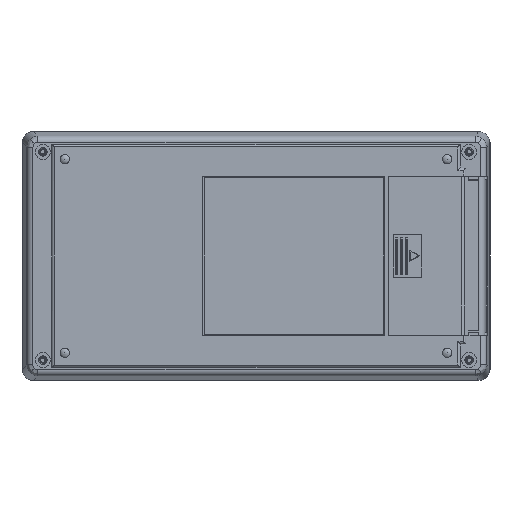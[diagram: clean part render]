
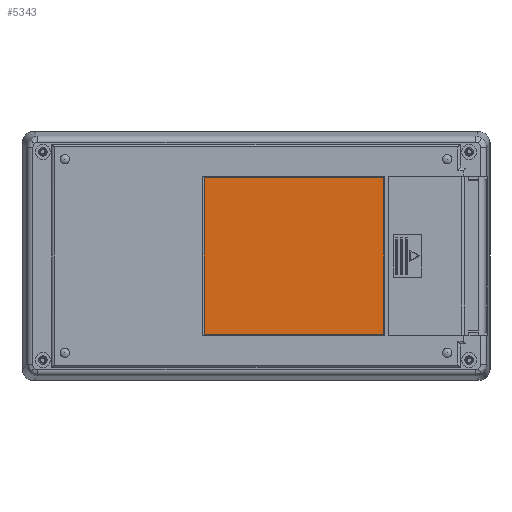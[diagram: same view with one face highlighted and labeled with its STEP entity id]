
A CAD part, front view. The second image highlights one B-rep face of the part: STEP entity #5343.
In plain terms, the highlighted planar face has unit normal (0, -1, 0).
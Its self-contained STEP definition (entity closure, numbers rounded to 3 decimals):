
#19 = VECTOR ( 'NONE', #9238, 1000. ) ;
#167 = ORIENTED_EDGE ( 'NONE', *, *, #18720, .T. ) ;
#619 = ORIENTED_EDGE ( 'NONE', *, *, #25560, .T. ) ;
#759 = CARTESIAN_POINT ( 'NONE',  ( 52.1, -14.3, 32. ) ) ;
#1273 = LINE ( 'NONE', #19571, #19328 ) ;
#1848 = LINE ( 'NONE', #16998, #19942 ) ;
#2340 = FACE_OUTER_BOUND ( 'NONE', #5922, .T. ) ;
#4705 = EDGE_CURVE ( 'NONE', #21185, #5279, #1273, .T. ) ;
#4934 = VECTOR ( 'NONE', #19620, 1000. ) ;
#5279 = VERTEX_POINT ( 'NONE', #23402 ) ;
#5343 = ADVANCED_FACE ( 'NONE', ( #2340 ), #7094, .T. ) ;
#5604 = CARTESIAN_POINT ( 'NONE',  ( 52.1, -14.3, 32. ) ) ;
#5922 = EDGE_LOOP ( 'NONE', ( #10337, #619, #167, #21946 ) ) ;
#6863 = CARTESIAN_POINT ( 'NONE',  ( 52.1, -14.3, -32. ) ) ;
#7094 = PLANE ( 'NONE',  #15689 ) ;
#8149 = DIRECTION ( 'NONE',  ( 0., 0., 1. ) ) ;
#8502 = CARTESIAN_POINT ( 'NONE',  ( 52.1, -14.3, -32. ) ) ;
#9238 = DIRECTION ( 'NONE',  ( 1., 0., 0. ) ) ;
#9574 = DIRECTION ( 'NONE',  ( 0., 0., -1. ) ) ;
#10112 = EDGE_CURVE ( 'NONE', #5279, #23004, #12581, .T. ) ;
#10337 = ORIENTED_EDGE ( 'NONE', *, *, #10112, .T. ) ;
#12581 = LINE ( 'NONE', #6863, #19 ) ;
#12689 = VERTEX_POINT ( 'NONE', #5604 ) ;
#15689 = AXIS2_PLACEMENT_3D ( 'NONE', #21331, #23687, #9574 ) ;
#16998 = CARTESIAN_POINT ( 'NONE',  ( 52.1, -14.3, 32. ) ) ;
#18543 = CARTESIAN_POINT ( 'NONE',  ( -21.2, -14.3, 32. ) ) ;
#18720 = EDGE_CURVE ( 'NONE', #12689, #21185, #23750, .T. ) ;
#19328 = VECTOR ( 'NONE', #24318, 1000. ) ;
#19571 = CARTESIAN_POINT ( 'NONE',  ( -21.2, -14.3, 32. ) ) ;
#19620 = DIRECTION ( 'NONE',  ( -1., 0., 0. ) ) ;
#19942 = VECTOR ( 'NONE', #8149, 1000. ) ;
#21185 = VERTEX_POINT ( 'NONE', #18543 ) ;
#21331 = CARTESIAN_POINT ( 'NONE',  ( -95.3, -14.3, -50.7 ) ) ;
#21946 = ORIENTED_EDGE ( 'NONE', *, *, #4705, .T. ) ;
#23004 = VERTEX_POINT ( 'NONE', #8502 ) ;
#23402 = CARTESIAN_POINT ( 'NONE',  ( -21.2, -14.3, -32. ) ) ;
#23687 = DIRECTION ( 'NONE',  ( 0., -1., 0. ) ) ;
#23750 = LINE ( 'NONE', #759, #4934 ) ;
#24318 = DIRECTION ( 'NONE',  ( 0., 0., -1. ) ) ;
#25560 = EDGE_CURVE ( 'NONE', #23004, #12689, #1848, .T. ) ;
